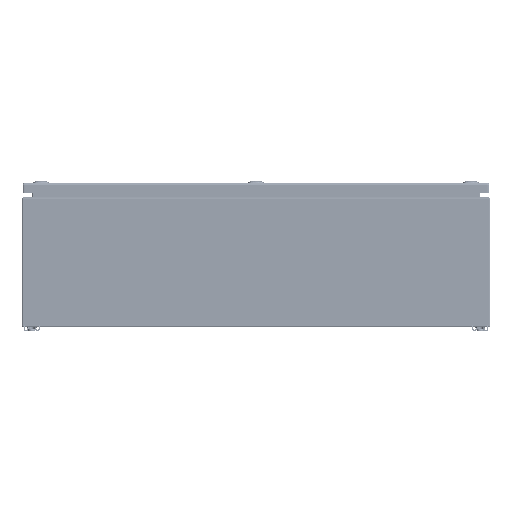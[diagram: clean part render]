
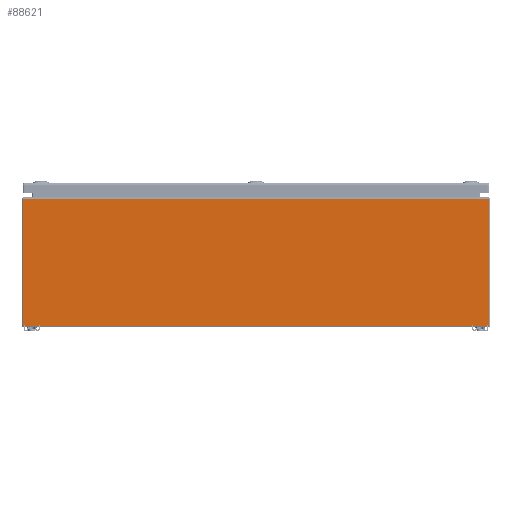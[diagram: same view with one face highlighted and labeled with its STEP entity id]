
A CAD part, front view. The second image highlights one B-rep face of the part: STEP entity #88621.
In plain terms, the highlighted planar face has unit normal (0, -1, 0).
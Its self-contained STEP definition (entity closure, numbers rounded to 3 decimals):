
#12064=FACE_OUTER_BOUND('',#17316,.T.);
#17316=EDGE_LOOP('',(#59163,#59164,#59165,#59166));
#23186=LINE('',#125614,#29654);
#23189=LINE('',#125636,#29657);
#23190=LINE('',#125638,#29658);
#23191=LINE('',#125639,#29659);
#29654=VECTOR('',#103022,0.394);
#29657=VECTOR('',#103053,0.394);
#29658=VECTOR('',#103054,0.394);
#29659=VECTOR('',#103055,0.394);
#36109=VERTEX_POINT('',#125603);
#36112=VERTEX_POINT('',#125613);
#36117=VERTEX_POINT('',#125635);
#36118=VERTEX_POINT('',#125637);
#45129=EDGE_CURVE('',#36109,#36112,#23186,.T.);
#45140=EDGE_CURVE('',#36117,#36109,#23189,.T.);
#45141=EDGE_CURVE('',#36117,#36118,#23190,.T.);
#45142=EDGE_CURVE('',#36112,#36118,#23191,.T.);
#59163=ORIENTED_EDGE('',*,*,#45129,.F.);
#59164=ORIENTED_EDGE('',*,*,#45140,.F.);
#59165=ORIENTED_EDGE('',*,*,#45141,.T.);
#59166=ORIENTED_EDGE('',*,*,#45142,.F.);
#86457=PLANE('',#94873);
#88621=ADVANCED_FACE('',(#12064),#86457,.T.);
#94873=AXIS2_PLACEMENT_3D('',#125634,#103051,#103052);
#103022=DIRECTION('',(1.,0.,0.));
#103051=DIRECTION('center_axis',(0.,-1.,0.));
#103052=DIRECTION('ref_axis',(-1.,0.,0.));
#103053=DIRECTION('',(0.,0.,1.));
#103054=DIRECTION('',(1.,0.,0.));
#103055=DIRECTION('',(0.,0.,-1.));
#125603=CARTESIAN_POINT('',(-17.901,-30.,9.901));
#125613=CARTESIAN_POINT('',(17.901,-30.,9.901));
#125614=CARTESIAN_POINT('',(0.025,-30.,9.901));
#125634=CARTESIAN_POINT('Origin',(18.,-30.,10.));
#125635=CARTESIAN_POINT('',(-17.901,-30.,0.099));
#125636=CARTESIAN_POINT('',(-17.901,-30.,5.));
#125637=CARTESIAN_POINT('',(17.901,-30.,0.099));
#125638=CARTESIAN_POINT('',(-8.951,-30.,0.099));
#125639=CARTESIAN_POINT('',(17.901,-30.,5.));
